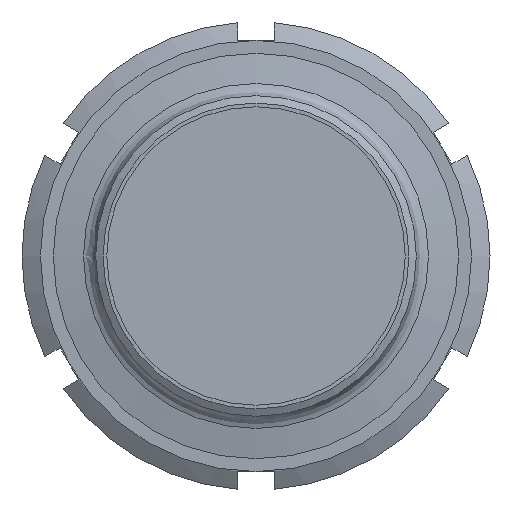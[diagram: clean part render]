
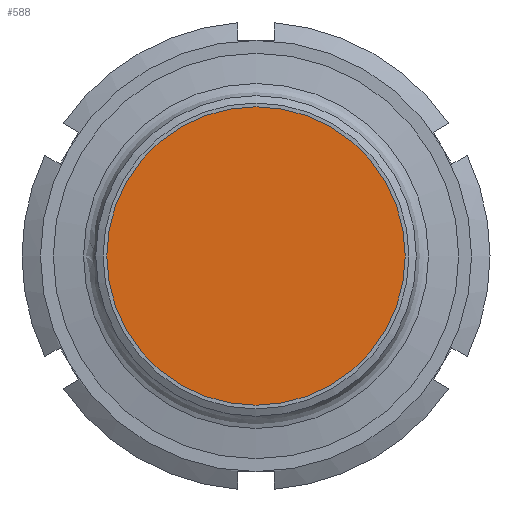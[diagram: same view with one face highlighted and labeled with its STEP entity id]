
A CAD part, left-side view. The second image highlights one B-rep face of the part: STEP entity #588.
In plain terms, the highlighted planar face has unit normal (-1, 0, 0) as drawn and (0, 0, -1) by its records, which use the part's own axes.
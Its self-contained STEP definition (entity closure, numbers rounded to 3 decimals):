
#559=CARTESIAN_POINT('',(49.5,0.,0.0));
#560=VERTEX_POINT('',#559);
#561=CARTESIAN_POINT('',(0.0,0.0,0.0));
#562=DIRECTION('',(0.0,0.0,-1.0));
#563=DIRECTION('',(-1.0,0.0,0.0));
#564=AXIS2_PLACEMENT_3D('',#561,#562,#563);
#565=CIRCLE('',#564,49.5);
#566=EDGE_CURVE('',#560,#560,#565,.T.);
#580=CARTESIAN_POINT('',(0.0,0.0,0.0));
#581=DIRECTION('',(0.0,0.0,-1.0));
#582=DIRECTION('',(-1.0,0.0,0.0));
#583=AXIS2_PLACEMENT_3D('',#580,#581,#582);
#584=PLANE('',#583);
#585=ORIENTED_EDGE('',*,*,#566,.T.);
#586=EDGE_LOOP('',(#585));
#587=FACE_OUTER_BOUND('',#586,.T.);
#588=ADVANCED_FACE('',(#587),#584,.T.);
